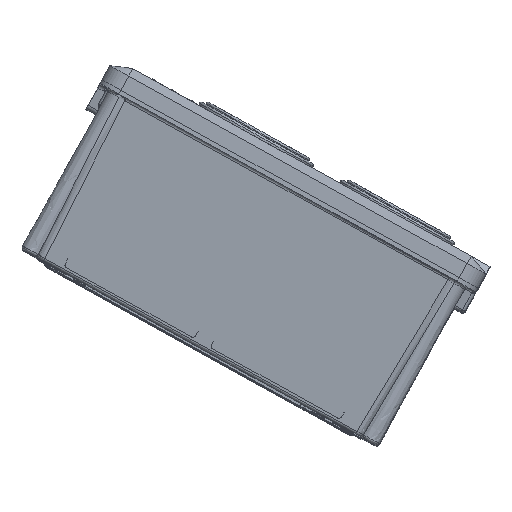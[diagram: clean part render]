
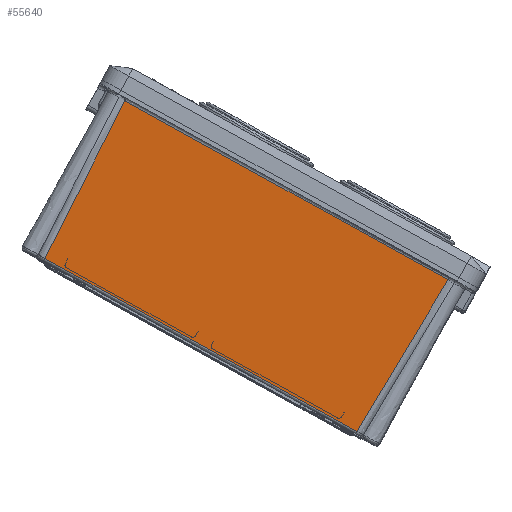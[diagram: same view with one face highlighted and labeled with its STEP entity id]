
A CAD part, top view. The second image highlights one B-rep face of the part: STEP entity #55640.
In plain terms, the highlighted free-form (B-spline) face has degree [3, 1] with [4, 2] control points.
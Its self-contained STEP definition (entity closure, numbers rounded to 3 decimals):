
#27062=CARTESIAN_POINT('',(-332.961,-172.211,564.198));
#27063=VERTEX_POINT('',#27062);
#28654=CARTESIAN_POINT('',(-1.04,-172.211,564.198));
#28655=VERTEX_POINT('',#28654);
#28666=CARTESIAN_POINT('',(-332.961,-172.211,564.198));
#28667=CARTESIAN_POINT('',(-222.321,-172.211,564.198));
#28668=CARTESIAN_POINT('',(-111.68,-172.211,564.198));
#28669=CARTESIAN_POINT('',(-1.04,-172.211,564.198));
#28670=B_SPLINE_CURVE_WITH_KNOTS('',3,(#28666,#28667,#28668,#28669),.UNSPECIFIED.,.F.,.F.,(4,4),(0.,0.332),.UNSPECIFIED.);
#28671=EDGE_CURVE('',#27063,#28655,#28670,.T.);
#45756=CARTESIAN_POINT('',(4.897,-7.844,575.799));
#45757=VERTEX_POINT('',#45756);
#45758=CARTESIAN_POINT('',(4.899,-7.789,575.803));
#45759=VERTEX_POINT('',#45758);
#45760=CARTESIAN_POINT('',(4.896,-7.844,575.799));
#45761=CARTESIAN_POINT('',(4.897,-7.826,575.8));
#45762=CARTESIAN_POINT('',(4.898,-7.807,575.802));
#45763=CARTESIAN_POINT('',(4.898,-7.789,575.803));
#45764=B_SPLINE_CURVE_WITH_KNOTS('',3,(#45760,#45761,#45762,#45763),.UNSPECIFIED.,.F.,.F.,(4,4),(0.,1.),.UNSPECIFIED.);
#45765=EDGE_CURVE('',#45757,#45759,#45764,.T.);
#45892=CARTESIAN_POINT('',(-338.9,-7.789,575.803));
#45893=VERTEX_POINT('',#45892);
#45943=CARTESIAN_POINT('',(4.899,-7.789,575.803));
#45944=CARTESIAN_POINT('',(-109.701,-7.789,575.803));
#45945=CARTESIAN_POINT('',(-224.3,-7.789,575.803));
#45946=CARTESIAN_POINT('',(-338.9,-7.789,575.803));
#45947=B_SPLINE_CURVE_WITH_KNOTS('',3,(#45943,#45944,#45945,#45946),.UNSPECIFIED.,.F.,.F.,(4,4),(0.169,0.513),.UNSPECIFIED.);
#45948=EDGE_CURVE('',#45759,#45893,#45947,.T.);
#55606=CARTESIAN_POINT('',(-332.961,-172.211,564.198));
#55607=CARTESIAN_POINT('',(-334.941,-117.404,568.067));
#55608=CARTESIAN_POINT('',(-336.92,-62.596,571.935));
#55609=CARTESIAN_POINT('',(-338.9,-7.789,575.803));
#55610=B_SPLINE_CURVE_WITH_KNOTS('',3,(#55606,#55607,#55608,#55609),.UNSPECIFIED.,.F.,.F.,(4,4),(0.016,0.984),.UNSPECIFIED.);
#55611=EDGE_CURVE('',#27063,#45893,#55610,.T.);
#55618=CARTESIAN_POINT('',(-1.04,-172.211,564.198));
#55619=CARTESIAN_POINT('',(4.899,-7.789,575.803));
#55620=CARTESIAN_POINT('',(-111.68,-172.211,564.198));
#55621=CARTESIAN_POINT('',(-109.701,-7.789,575.803));
#55622=CARTESIAN_POINT('',(-222.321,-172.211,564.198));
#55623=CARTESIAN_POINT('',(-224.3,-7.789,575.803));
#55624=CARTESIAN_POINT('',(-332.961,-172.211,564.198));
#55625=CARTESIAN_POINT('',(-338.9,-7.789,575.803));
#55626=B_SPLINE_SURFACE_WITH_KNOTS('',3,1,((#55618,#55619),(#55620,#55621),(#55622,#55623),(#55624,#55625)),.UNSPECIFIED.,.F.,.F.,.U.,(4,4),(2,2),(0.,1.),(0.016,0.984),.UNSPECIFIED.);
#55627=ORIENTED_EDGE('',*,*,#55611,.F.);
#55628=ORIENTED_EDGE('',*,*,#28671,.T.);
#55629=CARTESIAN_POINT('',(-1.04,-172.211,564.198));
#55630=CARTESIAN_POINT('',(0.939,-117.422,568.065));
#55631=CARTESIAN_POINT('',(2.918,-62.633,571.932));
#55632=CARTESIAN_POINT('',(4.897,-7.844,575.799));
#55633=B_SPLINE_CURVE_WITH_KNOTS('',3,(#55629,#55630,#55631,#55632),.UNSPECIFIED.,.F.,.F.,(4,4),(0.017,0.984),.UNSPECIFIED.);
#55634=EDGE_CURVE('',#28655,#45757,#55633,.T.);
#55635=ORIENTED_EDGE('',*,*,#55634,.T.);
#55636=ORIENTED_EDGE('',*,*,#45765,.T.);
#55637=ORIENTED_EDGE('',*,*,#45948,.T.);
#55638=EDGE_LOOP('',(#55627,#55628,#55635,#55636,#55637));
#55639=FACE_BOUND('',#55638,.T.);
#55640=ADVANCED_FACE('',(#55639),#55626,.F.);
